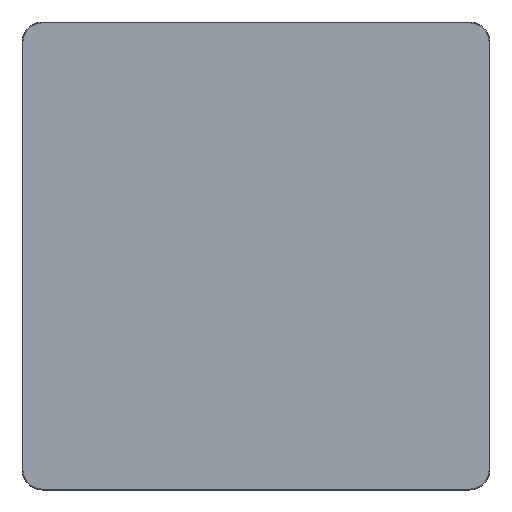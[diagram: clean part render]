
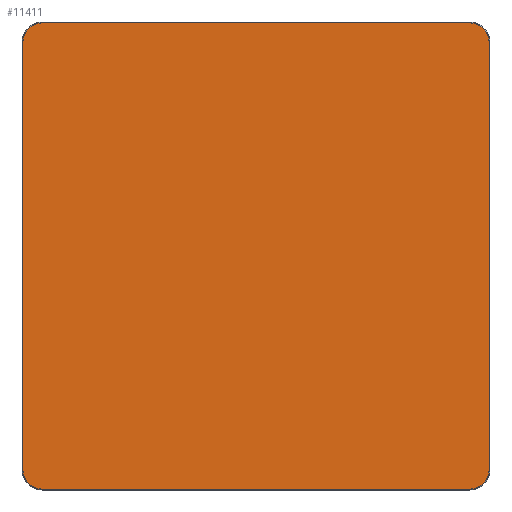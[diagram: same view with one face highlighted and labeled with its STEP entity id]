
A CAD part, top view. The second image highlights one B-rep face of the part: STEP entity #11411.
In plain terms, the highlighted planar face has unit normal (0, 0, 1).
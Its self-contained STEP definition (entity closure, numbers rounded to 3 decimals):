
#11336=CARTESIAN_POINT('',(0.,0.,20.));
#11337=DIRECTION('',(1.,0.,0.));
#11338=DIRECTION('',(0.,0.,1.));
#11339=AXIS2_PLACEMENT_3D('',#11336,#11338,#11337);
#11340=PLANE('',#11339);
#11341=CARTESIAN_POINT('',(-365.,-398.5,20.));
#11342=VERTEX_POINT('',#11341);
#11343=CARTESIAN_POINT('',(365.,-398.5,20.));
#11344=VERTEX_POINT('',#11343);
#11345=CARTESIAN_POINT('',(-365.,-398.5,20.));
#11346=DIRECTION('',(1.,0.,0.));
#11347=VECTOR('',#11346,730.);
#11348=LINE('',#11345,#11347);
#11349=EDGE_CURVE('',#11342,#11344,#11348,.T.);
#11350=ORIENTED_EDGE('E105',*,*,#11349,.T.);
#11351=CARTESIAN_POINT('',(398.5,-365.,20.));
#11352=VERTEX_POINT('',#11351);
#11353=CARTESIAN_POINT('',(365.,-365.,20.));
#11354=DIRECTION('',(0.,-1.,0.));
#11355=DIRECTION('',(0.,0.,1.));
#11356=AXIS2_PLACEMENT_3D('',#11353,#11355,#11354);
#11357=CIRCLE('',#11356,33.5);
#11358=EDGE_CURVE('',#11344,#11352,#11357,.T.);
#11359=ORIENTED_EDGE('E107',*,*,#11358,.T.);
#11360=CARTESIAN_POINT('',(398.5,365.,20.));
#11361=VERTEX_POINT('',#11360);
#11362=CARTESIAN_POINT('',(398.5,-365.,20.));
#11363=DIRECTION('',(0.,1.,0.));
#11364=VECTOR('',#11363,730.);
#11365=LINE('',#11362,#11364);
#11366=EDGE_CURVE('',#11352,#11361,#11365,.T.);
#11367=ORIENTED_EDGE('E109',*,*,#11366,.T.);
#11368=CARTESIAN_POINT('',(365.,398.5,20.));
#11369=VERTEX_POINT('',#11368);
#11370=CARTESIAN_POINT('',(365.,365.,20.));
#11371=DIRECTION('',(1.,0.,0.));
#11372=DIRECTION('',(0.,0.,1.));
#11373=AXIS2_PLACEMENT_3D('',#11370,#11372,#11371);
#11374=CIRCLE('',#11373,33.5);
#11375=EDGE_CURVE('',#11361,#11369,#11374,.T.);
#11376=ORIENTED_EDGE('E111',*,*,#11375,.T.);
#11377=CARTESIAN_POINT('',(-365.,398.5,20.));
#11378=VERTEX_POINT('',#11377);
#11379=CARTESIAN_POINT('',(365.,398.5,20.));
#11380=DIRECTION('',(-1.,0.,0.));
#11381=VECTOR('',#11380,730.);
#11382=LINE('',#11379,#11381);
#11383=EDGE_CURVE('',#11369,#11378,#11382,.T.);
#11384=ORIENTED_EDGE('E113',*,*,#11383,.T.);
#11385=CARTESIAN_POINT('',(-398.5,365.,20.));
#11386=VERTEX_POINT('',#11385);
#11387=CARTESIAN_POINT('',(-365.,365.,20.));
#11388=DIRECTION('',(0.,1.,0.));
#11389=DIRECTION('',(0.,0.,1.));
#11390=AXIS2_PLACEMENT_3D('',#11387,#11389,#11388);
#11391=CIRCLE('',#11390,33.5);
#11392=EDGE_CURVE('',#11378,#11386,#11391,.T.);
#11393=ORIENTED_EDGE('E115',*,*,#11392,.T.);
#11394=CARTESIAN_POINT('',(-398.5,-365.,20.));
#11395=VERTEX_POINT('',#11394);
#11396=CARTESIAN_POINT('',(-398.5,365.,20.));
#11397=DIRECTION('',(0.,-1.,0.));
#11398=VECTOR('',#11397,730.);
#11399=LINE('',#11396,#11398);
#11400=EDGE_CURVE('',#11386,#11395,#11399,.T.);
#11401=ORIENTED_EDGE('E117',*,*,#11400,.T.);
#11402=CARTESIAN_POINT('',(-365.,-365.,20.));
#11403=DIRECTION('',(-1.,0.,0.));
#11404=DIRECTION('',(0.,0.,1.));
#11405=AXIS2_PLACEMENT_3D('',#11402,#11404,#11403);
#11406=CIRCLE('',#11405,33.5);
#11407=EDGE_CURVE('',#11395,#11342,#11406,.T.);
#11408=ORIENTED_EDGE('E119',*,*,#11407,.T.);
#11409=EDGE_LOOP('',(#11350,#11359,#11367,#11376,#11384,#11393,#11401,#11408));
#11410=FACE_OUTER_BOUND('',#11409,.T.);
#11411=ADVANCED_FACE('F2',(#11410),#11340,.T.);
